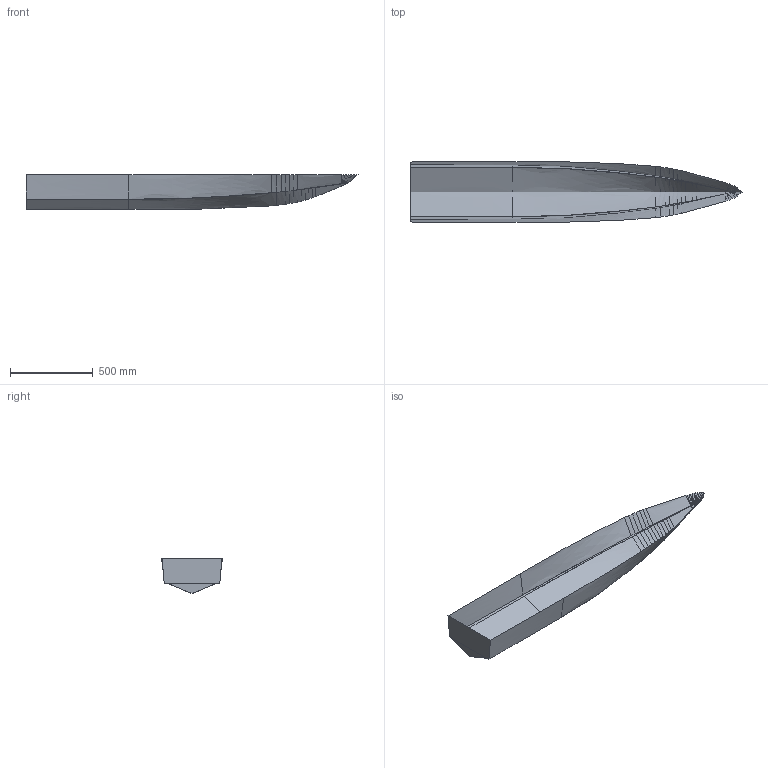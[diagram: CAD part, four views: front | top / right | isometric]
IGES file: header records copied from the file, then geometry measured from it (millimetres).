
Global section: file name: \\filestore.soton.ac.uk\users\djt2\mydocuments\Library\MyPublications\Journal\2011-IJSCT96-HSC Resistance\Models\HULL B.igs; native system: Rhinoceros ( May 22 2017 ); preprocessor: Trout Lake IGES 012 May 22 2017; date: 180801.114401; units: millimetre
Bounding box: 2000.03 x 366.34 x 210.57 mm (x, y, z)
Surface area: 1156931.3 mm2 (no closed solid volume)
Topology: 0 solids, 0 shells, 90 faces, 1227 edges, 1277 vertices
Faces by surface type: bspline 90
